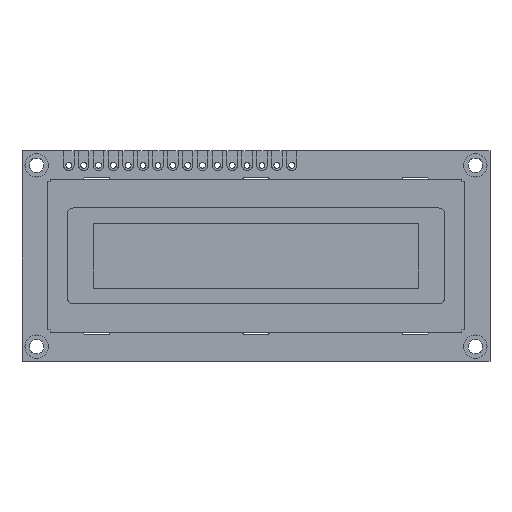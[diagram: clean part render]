
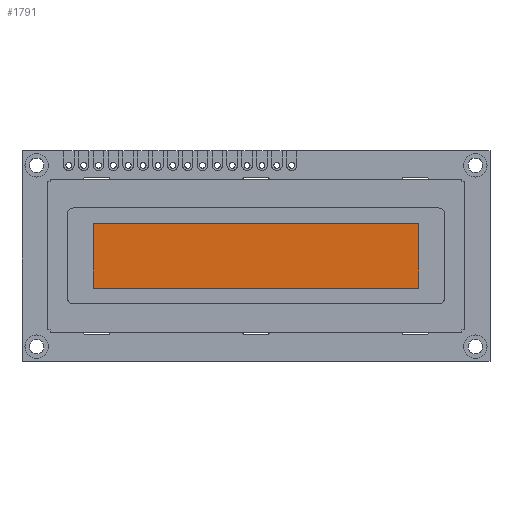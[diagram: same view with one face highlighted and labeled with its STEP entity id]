
A CAD part, top view. The second image highlights one B-rep face of the part: STEP entity #1791.
In plain terms, the highlighted planar face has unit normal (0, 0, 1).
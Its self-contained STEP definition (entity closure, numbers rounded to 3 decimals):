
#1037 = EDGE_CURVE ( 'NONE', #8870, #12897, #9145, .T. ) ;
#1507 = DIRECTION ( 'NONE',  ( 1., 0., 0. ) ) ;
#1791 = ADVANCED_FACE ( 'NONE', ( #14344 ), #12841, .T. ) ;
#2051 = VECTOR ( 'NONE', #13714, 1000. ) ;
#2617 = EDGE_CURVE ( 'NONE', #5517, #8870, #7368, .T. ) ;
#2940 = LINE ( 'NONE', #5707, #15797 ) ;
#3005 = LINE ( 'NONE', #12349, #15854 ) ;
#3041 = ORIENTED_EDGE ( 'NONE', *, *, #2617, .T. ) ;
#4507 = DIRECTION ( 'NONE',  ( 0., -1., 0. ) ) ;
#5376 = DIRECTION ( 'NONE',  ( 0., 0., 1. ) ) ;
#5517 = VERTEX_POINT ( 'NONE', #14694 ) ;
#5707 = CARTESIAN_POINT ( 'NONE',  ( -27.825, 5.49, 6. ) ) ;
#5887 = AXIS2_PLACEMENT_3D ( 'NONE', #12860, #5376, #1507 ) ;
#6099 = CARTESIAN_POINT ( 'NONE',  ( 27.825, -5.49, 6. ) ) ;
#7368 = LINE ( 'NONE', #15489, #13582 ) ;
#8482 = ORIENTED_EDGE ( 'NONE', *, *, #1037, .T. ) ;
#8870 = VERTEX_POINT ( 'NONE', #6099 ) ;
#9024 = VERTEX_POINT ( 'NONE', #10037 ) ;
#9145 = LINE ( 'NONE', #11498, #2051 ) ;
#9931 = DIRECTION ( 'NONE',  ( -1., 0., 0. ) ) ;
#10037 = CARTESIAN_POINT ( 'NONE',  ( -27.825, 5.49, 6. ) ) ;
#11498 = CARTESIAN_POINT ( 'NONE',  ( 27.825, 5.49, 6. ) ) ;
#11650 = EDGE_CURVE ( 'NONE', #12897, #9024, #3005, .T. ) ;
#11778 = DIRECTION ( 'NONE',  ( 1., 0., 0. ) ) ;
#12349 = CARTESIAN_POINT ( 'NONE',  ( -27.825, 5.49, 6. ) ) ;
#12747 = EDGE_CURVE ( 'NONE', #9024, #5517, #2940, .T. ) ;
#12841 = PLANE ( 'NONE',  #5887 ) ;
#12860 = CARTESIAN_POINT ( 'NONE',  ( 0., 0., 6. ) ) ;
#12897 = VERTEX_POINT ( 'NONE', #13450 ) ;
#13450 = CARTESIAN_POINT ( 'NONE',  ( 27.825, 5.49, 6. ) ) ;
#13582 = VECTOR ( 'NONE', #11778, 1000. ) ;
#13714 = DIRECTION ( 'NONE',  ( 0., 1., 0. ) ) ;
#13960 = ORIENTED_EDGE ( 'NONE', *, *, #12747, .T. ) ;
#14344 = FACE_OUTER_BOUND ( 'NONE', #14719, .T. ) ;
#14443 = ORIENTED_EDGE ( 'NONE', *, *, #11650, .T. ) ;
#14694 = CARTESIAN_POINT ( 'NONE',  ( -27.825, -5.49, 6. ) ) ;
#14719 = EDGE_LOOP ( 'NONE', ( #8482, #14443, #13960, #3041 ) ) ;
#15489 = CARTESIAN_POINT ( 'NONE',  ( -27.825, -5.49, 6. ) ) ;
#15797 = VECTOR ( 'NONE', #4507, 1000. ) ;
#15854 = VECTOR ( 'NONE', #9931, 1000. ) ;
